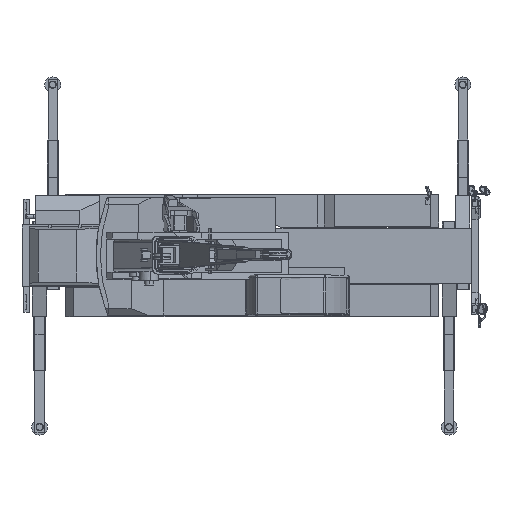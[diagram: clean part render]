
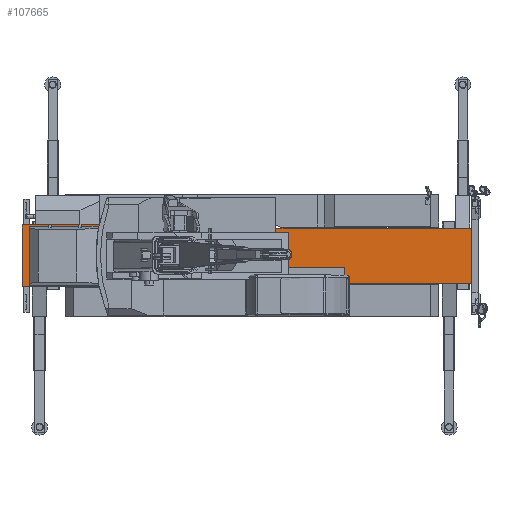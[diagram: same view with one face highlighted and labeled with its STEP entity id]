
A CAD part, top view. The second image highlights one B-rep face of the part: STEP entity #107665.
In plain terms, the highlighted planar face has unit normal (0, 0, 1).
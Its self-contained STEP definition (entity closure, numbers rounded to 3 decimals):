
#107199=CARTESIAN_POINT('Vertex',(-3044.,678.7,0.)) ;
#107202=CARTESIAN_POINT('Line Origine',(-4051.,678.7,0.)) ;
#107206=CARTESIAN_POINT('Vertex',(-5058.,678.7,0.)) ;
#107238=CARTESIAN_POINT('Vertex',(-3044.,-678.7,0.)) ;
#107241=CARTESIAN_POINT('Line Origine',(-3044.,0.,0.)) ;
#107264=CARTESIAN_POINT('Vertex',(-5058.,-678.7,0.)) ;
#107267=CARTESIAN_POINT('Line Origine',(-4051.,-678.7,0.)) ;
#107284=CARTESIAN_POINT('Line Origine',(-5058.,0.,0.)) ;
#107307=CARTESIAN_POINT('Vertex',(5016.,-632.5,0.)) ;
#107314=CARTESIAN_POINT('Vertex',(5016.,632.5,0.)) ;
#107317=CARTESIAN_POINT('Line Origine',(5016.,0.,0.)) ;
#107333=CARTESIAN_POINT('Vertex',(-200.,775.,0.)) ;
#107338=CARTESIAN_POINT('Line Origine',(12.5,775.,0.)) ;
#107342=CARTESIAN_POINT('Vertex',(225.,775.,0.)) ;
#107369=CARTESIAN_POINT('Line Origine',(383.5,703.75,0.)) ;
#107373=CARTESIAN_POINT('Vertex',(542.,632.5,0.)) ;
#107407=CARTESIAN_POINT('Line Origine',(2779.,632.5,0.)) ;
#107463=CARTESIAN_POINT('Line Origine',(2779.,-632.5,0.)) ;
#107467=CARTESIAN_POINT('Vertex',(542.,-632.5,0.)) ;
#107500=CARTESIAN_POINT('Line Origine',(383.5,-703.75,0.)) ;
#107504=CARTESIAN_POINT('Vertex',(225.,-775.,0.)) ;
#107533=CARTESIAN_POINT('Line Origine',(12.5,-775.,0.)) ;
#107537=CARTESIAN_POINT('Vertex',(-200.,-775.,0.)) ;
#107568=CARTESIAN_POINT('Vertex',(-400.,704.,0.)) ;
#107571=CARTESIAN_POINT('Line Origine',(-300.,739.5,0.)) ;
#107592=CARTESIAN_POINT('Vertex',(-5221.,-704.,0.)) ;
#107597=CARTESIAN_POINT('Line Origine',(-5221.,0.,0.)) ;
#107601=CARTESIAN_POINT('Vertex',(-5221.,704.,0.)) ;
#107623=CARTESIAN_POINT('Axis2P3D Location',(5016.,0.,0.)) ;
#107628=CARTESIAN_POINT('Line Origine',(-2810.5,704.,0.)) ;
#107633=CARTESIAN_POINT('Line Origine',(-2810.5,-704.,0.)) ;
#107637=CARTESIAN_POINT('Vertex',(-400.,-704.,0.)) ;
#107640=CARTESIAN_POINT('Line Origine',(-300.,-739.5,0.)) ;
#107203=DIRECTION('Vector Direction',(-1.,0.,0.)) ;
#107242=DIRECTION('Vector Direction',(0.,1.,0.)) ;
#107268=DIRECTION('Vector Direction',(-1.,0.,0.)) ;
#107285=DIRECTION('Vector Direction',(0.,1.,0.)) ;
#107318=DIRECTION('Vector Direction',(0.,1.,0.)) ;
#107339=DIRECTION('Vector Direction',(-1.,0.,0.)) ;
#107370=DIRECTION('Vector Direction',(0.912,-0.41,0.)) ;
#107408=DIRECTION('Vector Direction',(1.,0.,0.)) ;
#107464=DIRECTION('Vector Direction',(-1.,0.,0.)) ;
#107501=DIRECTION('Vector Direction',(-0.912,-0.41,0.)) ;
#107534=DIRECTION('Vector Direction',(-1.,0.,0.)) ;
#107572=DIRECTION('Vector Direction',(-0.942,-0.335,0.)) ;
#107598=DIRECTION('Vector Direction',(0.,1.,0.)) ;
#107624=DIRECTION('Axis2P3D Direction',(0.,0.,-1.)) ;
#107625=DIRECTION('Axis2P3D XDirection',(-1.,0.,0.)) ;
#107629=DIRECTION('Vector Direction',(-1.,0.,0.)) ;
#107634=DIRECTION('Vector Direction',(-1.,0.,0.)) ;
#107641=DIRECTION('Vector Direction',(-0.942,0.335,0.)) ;
#107626=AXIS2_PLACEMENT_3D('Plane Axis2P3D',#107623,#107624,#107625) ;
#107646=ORIENTED_EDGE('',*,*,#107344,.F.) ;
#107647=ORIENTED_EDGE('',*,*,#107575,.T.) ;
#107648=ORIENTED_EDGE('',*,*,#107632,.T.) ;
#107649=ORIENTED_EDGE('',*,*,#107603,.F.) ;
#107650=ORIENTED_EDGE('',*,*,#107639,.T.) ;
#107651=ORIENTED_EDGE('',*,*,#107644,.T.) ;
#107652=ORIENTED_EDGE('',*,*,#107539,.T.) ;
#107653=ORIENTED_EDGE('',*,*,#107506,.T.) ;
#107654=ORIENTED_EDGE('',*,*,#107469,.T.) ;
#107655=ORIENTED_EDGE('',*,*,#107321,.T.) ;
#107656=ORIENTED_EDGE('',*,*,#107411,.T.) ;
#107657=ORIENTED_EDGE('',*,*,#107375,.T.) ;
#107660=ORIENTED_EDGE('',*,*,#107208,.F.) ;
#107661=ORIENTED_EDGE('',*,*,#107245,.F.) ;
#107662=ORIENTED_EDGE('',*,*,#107271,.T.) ;
#107663=ORIENTED_EDGE('',*,*,#107288,.T.) ;
#107664=FACE_BOUND('',#107659,.T.) ;
#107204=VECTOR('Line Direction',#107203,1.) ;
#107243=VECTOR('Line Direction',#107242,1.) ;
#107269=VECTOR('Line Direction',#107268,1.) ;
#107286=VECTOR('Line Direction',#107285,1.) ;
#107319=VECTOR('Line Direction',#107318,1.) ;
#107340=VECTOR('Line Direction',#107339,1.) ;
#107371=VECTOR('Line Direction',#107370,1.) ;
#107409=VECTOR('Line Direction',#107408,1.) ;
#107465=VECTOR('Line Direction',#107464,1.) ;
#107502=VECTOR('Line Direction',#107501,1.) ;
#107535=VECTOR('Line Direction',#107534,1.) ;
#107573=VECTOR('Line Direction',#107572,1.) ;
#107599=VECTOR('Line Direction',#107598,1.) ;
#107630=VECTOR('Line Direction',#107629,1.) ;
#107635=VECTOR('Line Direction',#107634,1.) ;
#107642=VECTOR('Line Direction',#107641,1.) ;
#107665=ADVANCED_FACE('PartBody',(#107658,#107664),#107627,.F.) ;
#107208=EDGE_CURVE('',#107200,#107207,#107205,.T.) ;
#107245=EDGE_CURVE('',#107239,#107200,#107244,.T.) ;
#107271=EDGE_CURVE('',#107239,#107265,#107270,.T.) ;
#107288=EDGE_CURVE('',#107265,#107207,#107287,.T.) ;
#107321=EDGE_CURVE('',#107308,#107315,#107320,.T.) ;
#107344=EDGE_CURVE('',#107334,#107343,#107341,.F.) ;
#107375=EDGE_CURVE('',#107374,#107343,#107372,.F.) ;
#107411=EDGE_CURVE('',#107315,#107374,#107410,.F.) ;
#107469=EDGE_CURVE('',#107468,#107308,#107466,.F.) ;
#107506=EDGE_CURVE('',#107505,#107468,#107503,.F.) ;
#107539=EDGE_CURVE('',#107538,#107505,#107536,.F.) ;
#107575=EDGE_CURVE('',#107334,#107569,#107574,.T.) ;
#107603=EDGE_CURVE('',#107593,#107602,#107600,.T.) ;
#107632=EDGE_CURVE('',#107569,#107602,#107631,.T.) ;
#107639=EDGE_CURVE('',#107593,#107638,#107636,.F.) ;
#107644=EDGE_CURVE('',#107638,#107538,#107643,.F.) ;
#107645=EDGE_LOOP('',(#107646,#107647,#107648,#107649,#107650,#107651,#107652,#107653,#107654,#107655,#107656,#107657)) ;
#107659=EDGE_LOOP('',(#107660,#107661,#107662,#107663)) ;
#107658=FACE_OUTER_BOUND('',#107645,.T.) ;
#107205=LINE('Line',#107202,#107204) ;
#107244=LINE('Line',#107241,#107243) ;
#107270=LINE('Line',#107267,#107269) ;
#107287=LINE('Line',#107284,#107286) ;
#107320=LINE('Line',#107317,#107319) ;
#107341=LINE('Line',#107338,#107340) ;
#107372=LINE('Line',#107369,#107371) ;
#107410=LINE('Line',#107407,#107409) ;
#107466=LINE('Line',#107463,#107465) ;
#107503=LINE('Line',#107500,#107502) ;
#107536=LINE('Line',#107533,#107535) ;
#107574=LINE('Line',#107571,#107573) ;
#107600=LINE('Line',#107597,#107599) ;
#107631=LINE('Line',#107628,#107630) ;
#107636=LINE('Line',#107633,#107635) ;
#107643=LINE('Line',#107640,#107642) ;
#107627=PLANE('',#107626) ;
#107200=VERTEX_POINT('',#107199) ;
#107207=VERTEX_POINT('',#107206) ;
#107239=VERTEX_POINT('',#107238) ;
#107265=VERTEX_POINT('',#107264) ;
#107308=VERTEX_POINT('',#107307) ;
#107315=VERTEX_POINT('',#107314) ;
#107334=VERTEX_POINT('',#107333) ;
#107343=VERTEX_POINT('',#107342) ;
#107374=VERTEX_POINT('',#107373) ;
#107468=VERTEX_POINT('',#107467) ;
#107505=VERTEX_POINT('',#107504) ;
#107538=VERTEX_POINT('',#107537) ;
#107569=VERTEX_POINT('',#107568) ;
#107593=VERTEX_POINT('',#107592) ;
#107602=VERTEX_POINT('',#107601) ;
#107638=VERTEX_POINT('',#107637) ;
